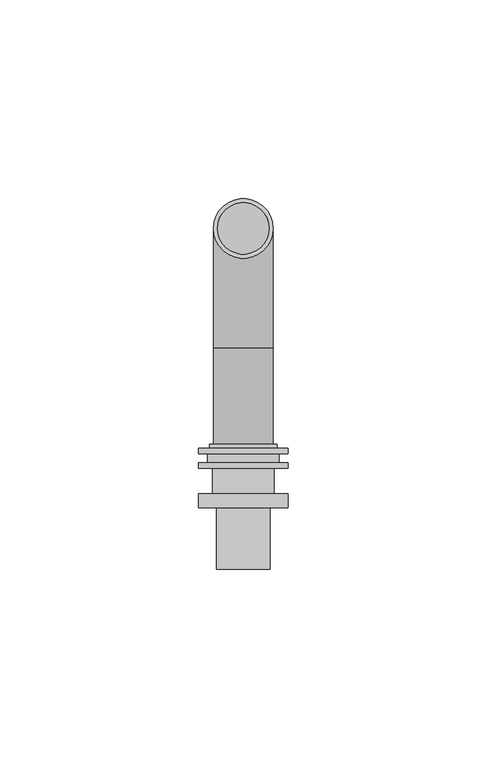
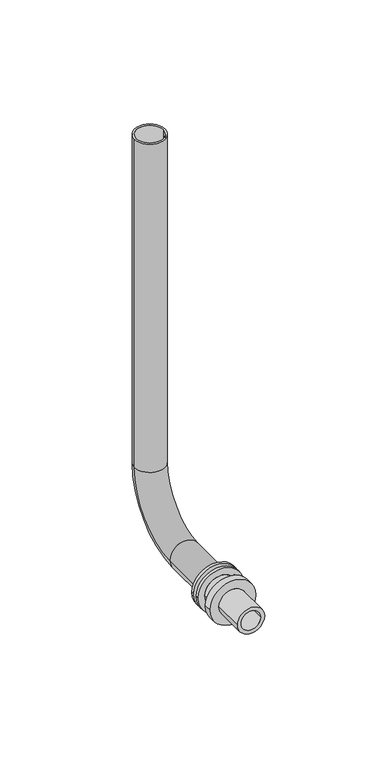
"""IFC4 building model written with IfcOpenShell, lengths in millimetres: pipe fitting geometry, RAUTITAN_Radiator WAG16 Brass : RAUTITAN_Radiator WAG16 Brass."""

from ifc_helpers import new_model, si_unit, point, frame, origin, place, context, project, spatial, polyline, circle_curve, ellipse_curve, trimmed, source, transform, mapped, element, save
from ifc_brep_helpers import plane_surface, cylinder_surface, revolved_surface, advanced_brep


def pipe_fitting_8395c290(model_context):
    return source(origin(), model_context, "Body", "AdvancedBrep", [
        advanced_brep(
        [(6.5, -54.3, 0.0), (-6.5, -54.3, 0.0), (-6.5, -36.3, 0.0), (6.5, -36.3, 0.0), (8.5, -55.3, 0.0), (-8.5, -55.3, 0.0), (-8.5, -54.3, 0.0), (8.5, -54.3, 0.0), (11.3, -56.7, 0.0), (-11.3, -56.7, 0.0), (-11.3, -55.3, 0.0), (11.3, -55.3, 0.0), (9.0, -58.9, 0.0), (-9.0, -58.9, 0.0), (-9.0, -56.7, 0.0), (9.0, -56.7, 0.0), (11.3, -60.3, 0.0), (-11.3, -60.3, 0.0), (-11.3, -58.9, 0.0), (11.3, -58.9, 0.0), (7.8, -66.8, 0.0), (-7.8, -66.8, 0.0), (-7.8, -60.3, 0.0), (7.8, -60.3, 0.0), (11.3, -70.3, 0.0), (-11.3, -70.3, 0.0), (-11.3, -66.8, 0.0), (11.3, -66.8, 0.0), (6.7, -85.8, 0.0), (-6.7, -85.8, 0.0), (-6.7, -70.3, 0.0), (6.7, -70.3, 0.0), (4.8, -36.3, 0.0), (-4.8, -36.3, 0.0), (-4.8, -85.8, 0.0), (4.8, -85.8, 0.0)],
        [
            (0, 1, circle_curve(frame((0.0, -54.3, 0.0), z_axis=(0.0, 1.0, 0.0), x_axis=(-1.0, 0.0, 0.0)), 6.5)),
            (1, 2),
            (2, 3, circle_curve(frame((0.0, -36.3, 0.0), z_axis=(0.0, -1.0, 0.0), x_axis=(-1.0, 0.0, 0.0)), 6.5)),
            (3, 0),
            (4, 5, circle_curve(frame((0.0, -55.3, 0.0), z_axis=(0.0, 1.0, 0.0), x_axis=(-1.0, 0.0, 0.0)), 8.5)),
            (5, 6),
            (6, 7, circle_curve(frame((0.0, -54.3, 0.0), z_axis=(0.0, -1.0, 0.0), x_axis=(-1.0, 0.0, 0.0)), 8.5)),
            (7, 4),
            (8, 9, circle_curve(frame((0.0, -56.7, 0.0), z_axis=(0.0, 1.0, 0.0), x_axis=(-1.0, 0.0, 0.0)), 11.3)),
            (9, 10),
            (10, 11, circle_curve(frame((0.0, -55.3, 0.0), z_axis=(0.0, -1.0, 0.0), x_axis=(-1.0, 0.0, 0.0)), 11.3)),
            (11, 8),
            (12, 13, circle_curve(frame((0.0, -58.9, 0.0), z_axis=(0.0, 1.0, 0.0), x_axis=(-1.0, 0.0, 0.0)), 9.0)),
            (13, 14),
            (14, 15, circle_curve(frame((0.0, -56.7, 0.0), z_axis=(0.0, -1.0, 0.0), x_axis=(-1.0, 0.0, 0.0)), 9.0)),
            (15, 12),
            (16, 17, circle_curve(frame((0.0, -60.3, 0.0), z_axis=(0.0, 1.0, 0.0), x_axis=(-1.0, 0.0, 0.0)), 11.3)),
            (17, 18),
            (18, 19, circle_curve(frame((0.0, -58.9, 0.0), z_axis=(0.0, -1.0, 0.0), x_axis=(-1.0, 0.0, 0.0)), 11.3)),
            (19, 16),
            (20, 21, circle_curve(frame((0.0, -66.8, 0.0), z_axis=(0.0, 1.0, 0.0), x_axis=(-1.0, 0.0, 0.0)), 7.8)),
            (21, 22),
            (22, 23, circle_curve(frame((0.0, -60.3, 0.0), z_axis=(0.0, -1.0, 0.0), x_axis=(-1.0, 0.0, 0.0)), 7.8)),
            (23, 20),
            (24, 25, circle_curve(frame((0.0, -70.3, 0.0), z_axis=(0.0, 1.0, 0.0), x_axis=(-1.0, 0.0, 0.0)), 11.3)),
            (25, 26),
            (26, 27, circle_curve(frame((0.0, -66.8, 0.0), z_axis=(0.0, -1.0, 0.0), x_axis=(-1.0, 0.0, 0.0)), 11.3)),
            (27, 24),
            (28, 29, circle_curve(frame((0.0, -85.8, 0.0), z_axis=(0.0, 1.0, 0.0), x_axis=(-1.0, 0.0, 0.0)), 6.7)),
            (29, 30),
            (30, 31, circle_curve(frame((0.0, -70.3, 0.0), z_axis=(0.0, -1.0, 0.0), x_axis=(-1.0, 0.0, 0.0)), 6.7)),
            (31, 28),
            (32, 33, circle_curve(frame((0.0, -36.3, 0.0), z_axis=(0.0, 1.0, 0.0), x_axis=(-1.0, 0.0, 0.0)), 4.8)),
            (33, 34),
            (34, 35, circle_curve(frame((0.0, -85.8, 0.0), z_axis=(0.0, -1.0, 0.0), x_axis=(-1.0, 0.0, 0.0)), 4.8)),
            (35, 32),
            (1, 0, circle_curve(frame((0.0, -54.3, 0.0), z_axis=(0.0, 1.0, 0.0), x_axis=(1.0, 0.0, 0.0)), 6.5)),
            (3, 2, circle_curve(frame((0.0, -36.3, 0.0), z_axis=(0.0, -1.0, 0.0), x_axis=(1.0, 0.0, 0.0)), 6.5)),
            (6, 7, circle_curve(frame((0.0, -54.3, 0.0), z_axis=(0.0, 1.0, 0.0), x_axis=(1.0, 0.0, 0.0)), 8.5)),
            (5, 4, circle_curve(frame((0.0, -55.3, 0.0), z_axis=(0.0, 1.0, 0.0), x_axis=(1.0, 0.0, 0.0)), 8.5)),
            (10, 11, circle_curve(frame((0.0, -55.3, 0.0), z_axis=(0.0, 1.0, 0.0), x_axis=(1.0, 0.0, 0.0)), 11.3)),
            (9, 8, circle_curve(frame((0.0, -56.7, 0.0), z_axis=(0.0, 1.0, 0.0), x_axis=(1.0, 0.0, 0.0)), 11.3)),
            (14, 15, circle_curve(frame((0.0, -56.7, 0.0), z_axis=(0.0, 1.0, 0.0), x_axis=(1.0, 0.0, 0.0)), 9.0)),
            (13, 12, circle_curve(frame((0.0, -58.9, 0.0), z_axis=(0.0, 1.0, 0.0), x_axis=(1.0, 0.0, 0.0)), 9.0)),
            (18, 19, circle_curve(frame((0.0, -58.9, 0.0), z_axis=(0.0, 1.0, 0.0), x_axis=(1.0, 0.0, 0.0)), 11.3)),
            (17, 16, circle_curve(frame((0.0, -60.3, 0.0), z_axis=(0.0, 1.0, 0.0), x_axis=(1.0, 0.0, 0.0)), 11.3)),
            (22, 23, circle_curve(frame((0.0, -60.3, 0.0), z_axis=(0.0, 1.0, 0.0), x_axis=(1.0, 0.0, 0.0)), 7.8)),
            (21, 20, circle_curve(frame((0.0, -66.8, 0.0), z_axis=(0.0, 1.0, 0.0), x_axis=(1.0, 0.0, 0.0)), 7.8)),
            (26, 27, circle_curve(frame((0.0, -66.8, 0.0), z_axis=(0.0, 1.0, 0.0), x_axis=(1.0, 0.0, 0.0)), 11.3)),
            (25, 24, circle_curve(frame((0.0, -70.3, 0.0), z_axis=(0.0, 1.0, 0.0), x_axis=(1.0, 0.0, 0.0)), 11.3)),
            (30, 31, circle_curve(frame((0.0, -70.3, 0.0), z_axis=(0.0, 1.0, 0.0), x_axis=(1.0, 0.0, 0.0)), 6.7)),
            (29, 28, circle_curve(frame((0.0, -85.8, 0.0), z_axis=(0.0, 1.0, 0.0), x_axis=(1.0, 0.0, 0.0)), 6.7)),
            (34, 35, circle_curve(frame((0.0, -85.8, 0.0), z_axis=(0.0, 1.0, 0.0), x_axis=(1.0, 0.0, 0.0)), 4.8)),
            (33, 32, circle_curve(frame((0.0, -36.3, 0.0), z_axis=(0.0, 1.0, 0.0), x_axis=(1.0, 0.0, 0.0)), 4.8)),
        ],
        [
            cylinder_surface(frame((0.0, -54.3, 0.0), z_axis=(0.0, -1.0, 0.0), x_axis=(-1.0, 0.0, 0.0)), 6.5),
            cylinder_surface(frame((0.0, -54.3, 0.0), z_axis=(0.0, -1.0, 0.0), x_axis=(-1.0, 0.0, 0.0)), 8.5),
            cylinder_surface(frame((0.0, -54.3, 0.0), z_axis=(0.0, -1.0, 0.0), x_axis=(-1.0, 0.0, 0.0)), 11.3),
            cylinder_surface(frame((0.0, -54.3, 0.0), z_axis=(0.0, -1.0, 0.0), x_axis=(-1.0, 0.0, 0.0)), 9.0),
            cylinder_surface(frame((0.0, -54.3, 0.0), z_axis=(0.0, -1.0, 0.0), x_axis=(-1.0, 0.0, 0.0)), 7.8),
            cylinder_surface(frame((0.0, -54.3, 0.0), z_axis=(0.0, -1.0, 0.0), x_axis=(-1.0, 0.0, 0.0)), 6.7),
            revolved_surface(polyline([(-4.8, -85.8, 0.0), (-4.8, -36.3, 0.0)]), (0.0, -54.3, 0.0), (0.0, -1.0, 0.0)),
            cylinder_surface(frame((0.0, -54.3, 0.0), z_axis=(0.0, -1.0, 0.0), x_axis=(1.0, 0.0, 0.0)), 6.5),
            plane_surface(frame((0.0, -54.3, 0.0), z_axis=(0.0, 1.0, 0.0), x_axis=(1.0, 0.0, 0.0))),
            cylinder_surface(frame((0.0, -54.3, 0.0), z_axis=(0.0, -1.0, 0.0), x_axis=(1.0, 0.0, 0.0)), 8.5),
            plane_surface(frame((0.0, -55.3, 0.0), z_axis=(0.0, 1.0, 0.0), x_axis=(1.0, 0.0, 0.0))),
            cylinder_surface(frame((0.0, -54.3, 0.0), z_axis=(0.0, -1.0, 0.0), x_axis=(1.0, 0.0, 0.0)), 11.3),
            plane_surface(frame((0.0, -56.7, 0.0), z_axis=(0.0, -1.0, 0.0), x_axis=(1.0, 0.0, 0.0))),
            cylinder_surface(frame((0.0, -54.3, 0.0), z_axis=(0.0, -1.0, 0.0), x_axis=(1.0, 0.0, 0.0)), 9.0),
            plane_surface(frame((0.0, -58.9, 0.0), z_axis=(0.0, 1.0, 0.0), x_axis=(1.0, 0.0, 0.0))),
            plane_surface(frame((0.0, -60.3, 0.0), z_axis=(0.0, -1.0, 0.0), x_axis=(1.0, 0.0, 0.0))),
            cylinder_surface(frame((0.0, -54.3, 0.0), z_axis=(0.0, -1.0, 0.0), x_axis=(1.0, 0.0, 0.0)), 7.8),
            plane_surface(frame((0.0, -66.8, 0.0), z_axis=(0.0, 1.0, 0.0), x_axis=(1.0, 0.0, 0.0))),
            plane_surface(frame((0.0, -70.3, 0.0), z_axis=(0.0, -1.0, 0.0), x_axis=(1.0, 0.0, 0.0))),
            cylinder_surface(frame((0.0, -54.3, 0.0), z_axis=(0.0, -1.0, 0.0), x_axis=(1.0, 0.0, 0.0)), 6.7),
            plane_surface(frame((0.0, -85.8, 0.0), z_axis=(0.0, -1.0, 0.0), x_axis=(1.0, 0.0, 0.0))),
            revolved_surface(polyline([(4.8, -85.8, 0.0), (4.8, -36.3, 0.0)]), (0.0, -54.3, 0.0), (0.0, -1.0, 0.0)),
            plane_surface(frame((0.0, -36.3, 0.0), z_axis=(0.0, 1.0, 0.0), x_axis=(1.0, 0.0, 0.0))),
        ],
        [
            (0, [[1, 2, 3, 4]]),
            (1, [[5, 6, 7, 8]]),
            (2, [[9, 10, 11, 12]]),
            (3, [[13, 14, 15, 16]]),
            (2, [[17, 18, 19, 20]]),
            (4, [[21, 22, 23, 24]]),
            (2, [[25, 26, 27, 28]]),
            (5, [[29, 30, 31, 32]]),
            (6, [[33, 34, 35, 36]]),
            (7, [[37, -4, 38, -2]]),
            (8, [[39, -7], [-37, -1]]),
            (9, [[40, -8, -39, -6]]),
            (10, [[41, -11], [-40, -5]]),
            (11, [[42, -12, -41, -10]]),
            (12, [[-42, -9], [43, -15]]),
            (13, [[44, -16, -43, -14]]),
            (14, [[45, -19], [-44, -13]]),
            (11, [[46, -20, -45, -18]]),
            (15, [[-46, -17], [47, -23]]),
            (16, [[48, -24, -47, -22]]),
            (17, [[49, -27], [-48, -21]]),
            (11, [[50, -28, -49, -26]]),
            (18, [[-50, -25], [51, -31]]),
            (19, [[52, -32, -51, -30]]),
            (20, [[-52, -29], [53, -35]]),
            (21, [[54, -36, -53, -34]]),
            (22, [[-38, -3], [-54, -33]]),
        ],
    ),
        advanced_brep(
        [(-7.5, 0.0, 200.0), (7.5, 0.0, 200.0), (-6.5, 0.0, 200.0), (6.5, 0.0, 200.0), (-7.5, 0.0, 30.0), (7.5, 0.0, 30.0), (-6.5, 0.0, 30.0), (6.5, 0.0, 30.0), (7.5, -30.0, 0.0), (-7.5, -30.0, 0.0), (6.5, -30.0, 0.0), (-6.5, -30.0, 0.0), (-7.5, -54.3, 0.0), (7.5, -54.3, 0.0), (-6.5, -54.3, 0.0), (6.5, -54.3, 0.0)],
        [
            (0, 1, circle_curve(frame((0.0, 0.0, 200.0), z_axis=(0.0, 0.0, 1.0), x_axis=(1.0, 0.0, 0.0)), 7.5)),
            (1, 0, circle_curve(frame((0.0, 0.0, 200.0), z_axis=(0.0, 0.0, 1.0), x_axis=(1.0, 0.0, 0.0)), 7.5)),
            (2, 3, circle_curve(frame((0.0, 0.0, 200.0), z_axis=(0.0, 0.0, -1.0), x_axis=(1.0, 0.0, 0.0)), 6.5)),
            (3, 2, circle_curve(frame((0.0, 0.0, 200.0), z_axis=(0.0, 0.0, -1.0), x_axis=(1.0, 0.0, 0.0)), 6.5)),
            (0, 4),
            (4, 5, circle_curve(frame((0.0, 0.0, 30.0), z_axis=(0.0, 0.0, 1.0), x_axis=(1.0, 0.0, 0.0)), 7.5)),
            (5, 1),
            (5, 4, circle_curve(frame((0.0, 0.0, 30.0), z_axis=(0.0, 0.0, 1.0), x_axis=(1.0, 0.0, 0.0)), 7.5)),
            (2, 6),
            (6, 7, circle_curve(frame((0.0, 0.0, 30.0), z_axis=(0.0, 0.0, -1.0), x_axis=(1.0, 0.0, 0.0)), 6.5)),
            (7, 3),
            (7, 6, circle_curve(frame((0.0, 0.0, 30.0), z_axis=(0.0, 0.0, -1.0), x_axis=(1.0, 0.0, 0.0)), 6.5)),
            (8, 5, circle_curve(frame((7.5, -30.0, 30.0), z_axis=(1.0, 0.0, 0.0), x_axis=(0.0, 1.0, 0.0)), 30.0)),
            (4, 9, circle_curve(frame((-7.5, -30.0, 30.0), z_axis=(-1.0, 0.0, 0.0), x_axis=(0.0, 1.0, 0.0)), 30.0)),
            (9, 8, circle_curve(frame((0.0, -30.0, 0.0), z_axis=(0.0, 1.0, 0.0), x_axis=(1.0, 0.0, 0.0)), 7.5)),
            (8, 9, circle_curve(frame((0.0, -30.0, 0.0), z_axis=(0.0, 1.0, 0.0), x_axis=(1.0, 0.0, 0.0)), 7.5)),
            (10, 7, circle_curve(frame((6.5, -30.0, 30.0), z_axis=(1.0, 0.0, 0.0), x_axis=(0.0, 1.0, 0.0)), 30.0)),
            (6, 11, circle_curve(frame((-6.5, -30.0, 30.0), z_axis=(-1.0, 0.0, 0.0), x_axis=(0.0, 1.0, 0.0)), 30.0)),
            (11, 10, circle_curve(frame((0.0, -30.0, 0.0), z_axis=(0.0, -1.0, 0.0), x_axis=(1.0, 0.0, 0.0)), 6.5)),
            (10, 11, circle_curve(frame((0.0, -30.0, 0.0), z_axis=(0.0, -1.0, 0.0), x_axis=(1.0, 0.0, 0.0)), 6.5)),
            (12, 13, circle_curve(frame((0.0, -54.3, 0.0), z_axis=(0.0, -1.0, 0.0), x_axis=(1.0, 0.0, 0.0)), 7.5)),
            (13, 12, circle_curve(frame((0.0, -54.3, 0.0), z_axis=(0.0, -1.0, 0.0), x_axis=(1.0, 0.0, 0.0)), 7.5)),
            (14, 15, circle_curve(frame((0.0, -54.3, 0.0), z_axis=(0.0, 1.0, 0.0), x_axis=(1.0, 0.0, 0.0)), 6.5)),
            (15, 14, circle_curve(frame((0.0, -54.3, 0.0), z_axis=(0.0, 1.0, 0.0), x_axis=(1.0, 0.0, 0.0)), 6.5)),
            (9, 12),
            (13, 8),
            (11, 14),
            (15, 10),
        ],
        [
            plane_surface(frame((0.0, 0.0, 200.0), z_axis=(0.0, 0.0, 1.0), x_axis=(1.0, 0.0, 0.0))),
            cylinder_surface(frame((0.0, 0.0, 200.0), z_axis=(0.0, 0.0, 1.0), x_axis=(1.0, 0.0, 0.0)), 7.5),
            revolved_surface(polyline([(6.5, 0.0, 30.0), (6.5, 0.0, 200.0)]), (0.0, 0.0, 200.0), (0.0, 0.0, -1.0)),
            revolved_surface(trimmed(ellipse_curve(frame((0.0, 0.0, 30.0), z_axis=(0.0, 0.0, 1.0), x_axis=(1.0, 0.0, 0.0)), 7.5, 7.5), [point((-7.5, 0.0, 30.0))], [point((7.5, 0.0, 30.0))], True, "CARTESIAN"), (0.0, -30.0, 30.0), (-1.0, 0.0, 0.0)),
            revolved_surface(trimmed(ellipse_curve(frame((0.0, 0.0, 30.0), z_axis=(0.0, 0.0, 1.0), x_axis=(1.0, 0.0, 0.0)), 7.5, 7.5), [point((7.5, 0.0, 30.0))], [point((-7.5, 0.0, 30.0))], True, "CARTESIAN"), (0.0, -30.0, 30.0), (-1.0, 0.0, 0.0)),
            revolved_surface(trimmed(ellipse_curve(frame((0.0, 0.0, 30.0), z_axis=(0.0, 0.0, -1.0), x_axis=(1.0, 0.0, 0.0)), 6.5, 6.5), [point((-6.5, 0.0, 30.0))], [point((6.5, 0.0, 30.0))], True, "CARTESIAN"), (0.0, -30.0, 30.0), (-1.0, 0.0, 0.0)),
            revolved_surface(trimmed(ellipse_curve(frame((0.0, 0.0, 30.0), z_axis=(0.0, 0.0, -1.0), x_axis=(1.0, 0.0, 0.0)), 6.5, 6.5), [point((6.5, 0.0, 30.0))], [point((-6.5, 0.0, 30.0))], True, "CARTESIAN"), (0.0, -30.0, 30.0), (-1.0, 0.0, 0.0)),
            plane_surface(frame((0.0, -54.3, 0.0), z_axis=(0.0, -1.0, 0.0), x_axis=(1.0, 0.0, 0.0))),
            cylinder_surface(frame((0.0, -30.0, 0.0), z_axis=(0.0, 1.0, 0.0), x_axis=(1.0, 0.0, 0.0)), 7.5),
            revolved_surface(polyline([(6.5, -54.3, 0.0), (6.5, -30.0, 0.0)]), (0.0, -30.0, 0.0), (0.0, -1.0, 0.0)),
        ],
        [
            (0, [[1, 2], [3, 4]]),
            (1, [[-1, 5, 6, 7]]),
            (1, [[-2, -7, 8, -5]]),
            (2, [[-3, 9, 10, 11]]),
            (2, [[-4, -11, 12, -9]]),
            (3, [[13, -6, 14, 15]]),
            (4, [[-14, -8, -13, 16]]),
            (5, [[17, -10, 18, 19]]),
            (6, [[-18, -12, -17, 20]]),
            (7, [[21, 22], [23, 24]]),
            (8, [[-15, 25, -22, 26]]),
            (8, [[-16, -26, -21, -25]]),
            (9, [[-19, 27, -24, 28]]),
            (9, [[-20, -28, -23, -27]]),
        ],
    ),
    ])


if __name__ == "__main__":
    model = new_model("IFC4")
    model_context = context("Model", 3, world=origin())
    ifc_project = project(units=[si_unit("LENGTHUNIT", "METRE", prefix="MILLI")], contexts=[model_context])
    site = spatial("IfcSite", under=ifc_project)
    building = spatial("IfcBuilding", under=site)
    placement = place(None, origin())
    pipe_fitting_shape = pipe_fitting_8395c290(model_context)
    element("IfcPipeFitting", 1, ObjectType="RAUTITAN_Radiator WAG16 Brass : RAUTITAN_Radiator WAG16 Brass", at=placement, inside=building, context=model_context, shape_type="MappedRepresentation", body=[
        mapped(pipe_fitting_shape, transform((0.0, 0.0, 0.0), x_axis=(1.0, 0.0, 0.0), y_axis=(0.0, 1.0, 0.0), z_axis=(0.0, 0.0, 1.0))),
    ])
    save(model, "model.ifc")
